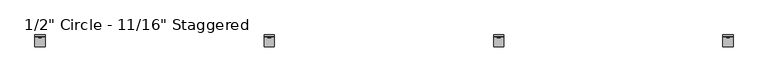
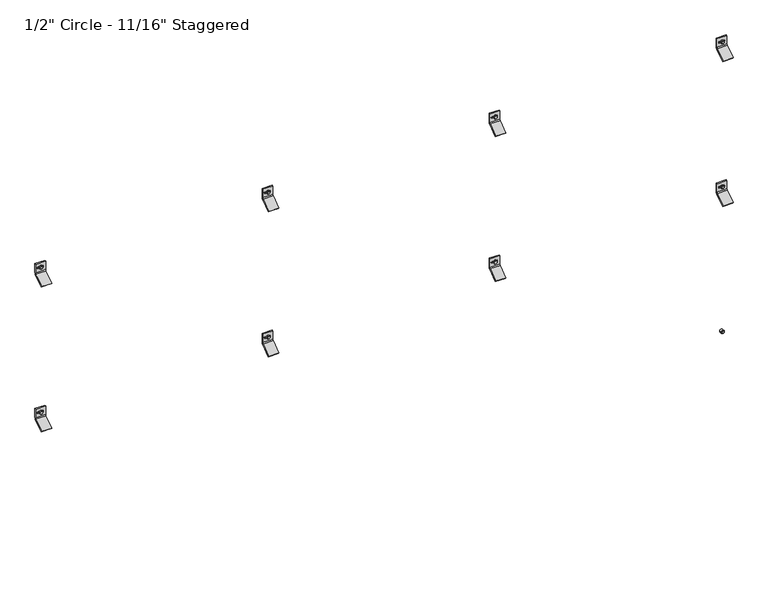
"""IFC4 building model written with IfcOpenShell, lengths in millimetres: plate geometry."""

from ifc_helpers import new_model, si_unit, point, frame, frame_2d, origin, place, context, project, spatial, polyline, circle_curve, trimmed, segment, composite_curve, outline, extrude, source, transform, mapped, element, save
from ifc_brep_helpers import plane_surface, cylinder_surface, revolved_surface, advanced_brep


def plate_ee657770(model_context):
    return source(origin(), model_context, "Body", "SolidModel", [
        extrude(outline(polyline([(1923.7554341, 1293.5570034), (1919.4097216, 1296.0660017), (1919.4097216, 1301.0839983), (1923.7554341, 1303.5929966), (1928.1011466, 1301.0839983), (1928.1011466, 1296.0660017), (1923.7554341, 1293.5570034)])), frame((0.0, -58.7607779, 0.0), z_axis=(0.0, 1.0, 0.0), x_axis=(0.0, 0.0, 1.0)), (0.0, 0.0, 1.0), 11.1357779),
        extrude(outline(composite_curve([segment(trimmed(circle_curve(frame_2d((1923.8487411, 1298.575)), 6.35), [point((1923.8487411, 1304.925))], [point((1923.8487411, 1292.225))], False, "CARTESIAN"), True, "CONTINUOUS"), segment(trimmed(circle_curve(frame_2d((1923.8487411, 1298.575)), 6.35), [point((1923.8487411, 1292.225))], [point((1923.8487411, 1304.925))], False, "CARTESIAN"), True, "CONTINUOUS")], self_intersect=False)), frame((0.0, -57.0817743, 0.0), z_axis=(0.0, 1.0, 0.0), x_axis=(0.0, 0.0, 1.0)), (0.0, 0.0, 1.0), 9.4567743),
        advanced_brep(
        [(1279.525, -47.625, 1906.606122), (1279.525, -51.2819443, 1898.9440896), (1279.525, -89.5163624, 1872.1720618), (1279.525, -92.9330442, 1875.5887436), (1279.525, -54.3526876, 1902.6030001), (1279.525, -52.4002, 1906.6061929), (1279.525, -52.4002, 1940.7988072), (1279.525, -47.625, 1940.7988072), (1317.625, -47.625, 1906.606122), (1317.625, -47.625, 1940.7988072), (1317.625, -52.4002, 1940.7988072), (1317.625, -52.4002, 1906.6061929), (1317.625, -54.3526876, 1902.6030001), (1317.625, -92.9330442, 1875.5887436), (1317.625, -89.5163624, 1872.1720618), (1317.625, -51.2819443, 1898.9440896), (1305.3161889, -52.4002, 1926.753591), (1305.3161889, -52.4002, 1920.403591), (1289.0883287, -52.4002, 1920.403591), (1289.0883287, -52.4002, 1926.753591), (1305.3161889, -47.625, 1920.403591), (1305.3161889, -47.625, 1926.753591), (1289.0883287, -47.625, 1926.753591), (1289.0883287, -47.625, 1920.403591)],
        [
            (0, 1, circle_curve(frame((1279.525, -57.4802202, 1906.606122), z_axis=(-1.0, 0.0, 0.0), x_axis=(0.0, -1.0, 0.0)), 9.8552202)),
            (1, 2),
            (2, 3),
            (3, 4),
            (4, 5, circle_curve(frame((1279.525, -57.4803246, 1906.6061929), z_axis=(1.0, 0.0, 0.0), x_axis=(0.0, -1.0, 0.0)), 5.0801246)),
            (5, 6),
            (6, 7),
            (7, 0),
            (8, 9),
            (9, 10),
            (10, 11),
            (11, 12, circle_curve(frame((1317.625, -57.4803246, 1906.6061929), z_axis=(-1.0, 0.0, 0.0), x_axis=(0.0, -1.0, 0.0)), 5.0801246)),
            (12, 13),
            (13, 14),
            (14, 15),
            (15, 8, circle_curve(frame((1317.625, -57.4802202, 1906.606122), z_axis=(1.0, 0.0, 0.0), x_axis=(0.0, -1.0, 0.0)), 9.8552202)),
            (4, 12),
            (11, 5),
            (10, 6),
            (16, 17, circle_curve(frame((1305.3161889, -52.4002, 1923.578591), z_axis=(0.0, 1.0, 0.0), x_axis=(0.0, 0.0, -1.0)), 3.175)),
            (17, 18),
            (18, 19, circle_curve(frame((1289.0883287, -52.4002, 1923.578591), z_axis=(0.0, 1.0, 0.0), x_axis=(0.0, 0.0, -1.0)), 3.175)),
            (19, 16),
            (9, 7),
            (8, 0),
            (20, 21, circle_curve(frame((1305.3161889, -47.625, 1923.578591), z_axis=(0.0, -1.0, 0.0), x_axis=(0.0, 0.0, -1.0)), 3.175)),
            (21, 22),
            (22, 23, circle_curve(frame((1289.0883287, -47.625, 1923.578591), z_axis=(0.0, -1.0, 0.0), x_axis=(0.0, 0.0, -1.0)), 3.175)),
            (23, 20),
            (15, 1),
            (20, 17),
            (16, 21),
            (19, 22),
            (18, 23),
            (14, 2),
            (13, 3),
        ],
        [
            plane_surface(frame((1279.525, -67.3354404, 1906.606122), z_axis=(-1.0, 0.0, 0.0), x_axis=(0.0, 0.0, 1.0))),
            plane_surface(frame((1317.625, -67.3354404, 1906.606122), z_axis=(1.0, 0.0, 0.0), x_axis=(0.0, 0.0, -1.0))),
            revolved_surface(polyline([(1317.625, -62.5604492, 1906.6061929), (1279.525, -62.5604492, 1906.6061929)]), (1317.625, -57.4803246, 1906.6061929), (1.0, 0.0, 0.0)),
            plane_surface(frame((1279.525, -52.4002, 1906.6061929), z_axis=(0.0, -1.0, 0.0), x_axis=(1.0, 0.0, 0.0))),
            plane_surface(frame((1279.525, -52.4002, 1940.7988072), z_axis=(0.0, 0.0, 1.0), x_axis=(1.0, 0.0, 0.0))),
            plane_surface(frame((1279.525, -47.625, 1940.7988072), z_axis=(0.0, 1.0, 6.99569853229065e-12), x_axis=(1.0, 0.0, 0.0))),
            cylinder_surface(frame((1317.625, -57.4802202, 1906.606122), z_axis=(-1.0, 0.0, 0.0), x_axis=(0.0, -1.0, 0.0)), 9.8552202),
            revolved_surface(polyline([(1305.3161889, -52.4002, 1920.403591), (1305.3161889, -47.625, 1920.403591)]), (1305.3161889, -25.6669948, 1923.578591), (0.0, -1.0, 0.0)),
            plane_surface(frame((1305.3161889, -86.677982, 1926.753591), z_axis=(0.0, 0.0, -1.0), x_axis=(0.0, 1.0, 0.0))),
            revolved_surface(polyline([(1289.0883287, -52.4002, 1920.403591), (1289.0883287, -47.625, 1920.403591)]), (1289.0883287, -25.6669948, 1923.578591), (0.0, -1.0, 0.0)),
            plane_surface(frame((1289.0883287, -86.677982, 1920.403591), z_axis=(-2.7237720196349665e-11, 0.0, 1.0), x_axis=(0.0, 1.0, 0.0))),
            plane_surface(frame((1279.525, -51.2819443, 1898.9440896), z_axis=(0.0, 0.5735764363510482, -0.8191520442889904), x_axis=(1.0, 0.0, 0.0))),
            plane_surface(frame((1279.525, -89.5163624, 1872.1720618), z_axis=(0.0, -0.7071067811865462, -0.7071067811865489), x_axis=(1.0, 0.0, 0.0))),
            plane_surface(frame((1279.525, -92.9330442, 1875.5887436), z_axis=(0.0, -0.5735764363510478, 0.8191520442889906), x_axis=(1.0, 0.0, 0.0))),
        ],
        [
            (0, [[1, 2, 3, 4, 5, 6, 7, 8]]),
            (1, [[9, 10, 11, 12, 13, 14, 15, 16]]),
            (2, [[-5, 17, -12, 18]]),
            (3, [[-6, -18, -11, 19], [20, 21, 22, 23]]),
            (4, [[-7, -19, -10, 24]]),
            (5, [[-8, -24, -9, 25], [26, 27, 28, 29]]),
            (6, [[-1, -25, -16, 30]]),
            (7, [[31, -20, 32, -26]]),
            (8, [[-32, -23, 33, -27]]),
            (9, [[-33, -22, 34, -28]]),
            (10, [[-31, -29, -34, -21]]),
            (11, [[-2, -30, -15, 35]]),
            (12, [[-3, -35, -14, 36]]),
            (13, [[-4, -36, -13, -17]]),
        ],
    ),
        extrude(outline(polyline([(1923.7554341, 427.8403368), (1919.4097216, 430.349335), (1919.4097216, 435.3673316), (1923.7554341, 437.8763299), (1928.1011466, 435.3673316), (1928.1011466, 430.349335), (1923.7554341, 427.8403368)])), frame((0.0, -58.7607779, 0.0), z_axis=(0.0, 1.0, 0.0), x_axis=(0.0, 0.0, 1.0)), (0.0, 0.0, 1.0), 11.1357779),
        extrude(outline(composite_curve([segment(trimmed(circle_curve(frame_2d((1923.8487411, 432.8583333)), 6.35), [point((1923.8487411, 439.2083333))], [point((1923.8487411, 426.5083333))], False, "CARTESIAN"), True, "CONTINUOUS"), segment(trimmed(circle_curve(frame_2d((1923.8487411, 432.8583333)), 6.35), [point((1923.8487411, 426.5083333))], [point((1923.8487411, 439.2083333))], False, "CARTESIAN"), True, "CONTINUOUS")], self_intersect=False)), frame((0.0, -57.0817743, 0.0), z_axis=(0.0, 1.0, 0.0), x_axis=(0.0, 0.0, 1.0)), (0.0, 0.0, 1.0), 9.4567743),
        advanced_brep(
        [(413.8083333, -47.625, 1906.606122), (413.8083333, -51.2819443, 1898.9440896), (413.8083333, -89.5163624, 1872.1720618), (413.8083333, -92.9330442, 1875.5887436), (413.8083333, -54.3526876, 1902.6030001), (413.8083333, -52.4002, 1906.6061929), (413.8083333, -52.4002, 1940.7988072), (413.8083333, -47.625, 1940.7988072), (451.9083333, -47.625, 1906.606122), (451.9083333, -47.625, 1940.7988072), (451.9083333, -52.4002, 1940.7988072), (451.9083333, -52.4002, 1906.6061929), (451.9083333, -54.3526876, 1902.6030001), (451.9083333, -92.9330442, 1875.5887436), (451.9083333, -89.5163624, 1872.1720618), (451.9083333, -51.2819443, 1898.9440896), (439.5995222, -52.4002, 1926.753591), (439.5995222, -52.4002, 1920.403591), (423.371662, -52.4002, 1920.403591), (423.371662, -52.4002, 1926.753591), (439.5995222, -47.625, 1920.403591), (439.5995222, -47.625, 1926.753591), (423.371662, -47.625, 1926.753591), (423.371662, -47.625, 1920.403591)],
        [
            (0, 1, circle_curve(frame((413.8083333, -57.4802202, 1906.606122), z_axis=(-1.0, 0.0, 0.0), x_axis=(0.0, -1.0, 0.0)), 9.8552202)),
            (1, 2),
            (2, 3),
            (3, 4),
            (4, 5, circle_curve(frame((413.8083333, -57.4803246, 1906.6061929), z_axis=(1.0, 0.0, 0.0), x_axis=(0.0, -1.0, 0.0)), 5.0801246)),
            (5, 6),
            (6, 7),
            (7, 0),
            (8, 9),
            (9, 10),
            (10, 11),
            (11, 12, circle_curve(frame((451.9083333, -57.4803246, 1906.6061929), z_axis=(-1.0, 0.0, 0.0), x_axis=(0.0, -1.0, 0.0)), 5.0801246)),
            (12, 13),
            (13, 14),
            (14, 15),
            (15, 8, circle_curve(frame((451.9083333, -57.4802202, 1906.606122), z_axis=(1.0, 0.0, 0.0), x_axis=(0.0, -1.0, 0.0)), 9.8552202)),
            (4, 12),
            (11, 5),
            (10, 6),
            (16, 17, circle_curve(frame((439.5995222, -52.4002, 1923.578591), z_axis=(0.0, 1.0, 0.0), x_axis=(0.0, 0.0, -1.0)), 3.175)),
            (17, 18),
            (18, 19, circle_curve(frame((423.371662, -52.4002, 1923.578591), z_axis=(0.0, 1.0, 0.0), x_axis=(0.0, 0.0, -1.0)), 3.175)),
            (19, 16),
            (9, 7),
            (8, 0),
            (20, 21, circle_curve(frame((439.5995222, -47.625, 1923.578591), z_axis=(0.0, -1.0, 0.0), x_axis=(0.0, 0.0, -1.0)), 3.175)),
            (21, 22),
            (22, 23, circle_curve(frame((423.371662, -47.625, 1923.578591), z_axis=(0.0, -1.0, 0.0), x_axis=(0.0, 0.0, -1.0)), 3.175)),
            (23, 20),
            (15, 1),
            (20, 17),
            (16, 21),
            (19, 22),
            (18, 23),
            (14, 2),
            (13, 3),
        ],
        [
            plane_surface(frame((413.8083333, -67.3354404, 1906.606122), z_axis=(-1.0, 0.0, 0.0), x_axis=(0.0, 0.0, 1.0))),
            plane_surface(frame((451.9083333, -67.3354404, 1906.606122), z_axis=(1.0, 0.0, 0.0), x_axis=(0.0, 0.0, -1.0))),
            revolved_surface(polyline([(451.9083333, -62.5604492, 1906.6061929), (413.8083333, -62.5604492, 1906.6061929)]), (451.9083333, -57.4803246, 1906.6061929), (1.0, 0.0, 0.0)),
            plane_surface(frame((413.8083333, -52.4002, 1906.6061929), z_axis=(0.0, -1.0, 0.0), x_axis=(1.0, 0.0, 0.0))),
            plane_surface(frame((413.8083333, -52.4002, 1940.7988072), z_axis=(0.0, 0.0, 1.0), x_axis=(1.0, 0.0, 0.0))),
            plane_surface(frame((413.8083333, -47.625, 1940.7988072), z_axis=(0.0, 1.0, 6.99569853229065e-12), x_axis=(1.0, 0.0, 0.0))),
            cylinder_surface(frame((451.9083333, -57.4802202, 1906.606122), z_axis=(-1.0, 0.0, 0.0), x_axis=(0.0, -1.0, 0.0)), 9.8552202),
            revolved_surface(polyline([(439.5995222, -52.4002, 1920.403591), (439.5995222, -47.625, 1920.403591)]), (439.5995222, -25.6669948, 1923.578591), (0.0, -1.0, 0.0)),
            plane_surface(frame((439.5995222, -86.677982, 1926.753591), z_axis=(0.0, 0.0, -1.0), x_axis=(0.0, 1.0, 0.0))),
            revolved_surface(polyline([(423.371662, -52.4002, 1920.403591), (423.371662, -47.625, 1920.403591)]), (423.371662, -25.6669948, 1923.578591), (0.0, -1.0, 0.0)),
            plane_surface(frame((423.371662, -86.677982, 1920.403591), z_axis=(-2.7237720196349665e-11, 0.0, 1.0), x_axis=(0.0, 1.0, 0.0))),
            plane_surface(frame((413.8083333, -51.2819443, 1898.9440896), z_axis=(0.0, 0.5735764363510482, -0.8191520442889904), x_axis=(1.0, 0.0, 0.0))),
            plane_surface(frame((413.8083333, -89.5163624, 1872.1720618), z_axis=(0.0, -0.7071067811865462, -0.7071067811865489), x_axis=(1.0, 0.0, 0.0))),
            plane_surface(frame((413.8083333, -92.9330442, 1875.5887436), z_axis=(0.0, -0.5735764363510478, 0.8191520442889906), x_axis=(1.0, 0.0, 0.0))),
        ],
        [
            (0, [[1, 2, 3, 4, 5, 6, 7, 8]]),
            (1, [[9, 10, 11, 12, 13, 14, 15, 16]]),
            (2, [[-5, 17, -12, 18]]),
            (3, [[-6, -18, -11, 19], [20, 21, 22, 23]]),
            (4, [[-7, -19, -10, 24]]),
            (5, [[-8, -24, -9, 25], [26, 27, 28, 29]]),
            (6, [[-1, -25, -16, 30]]),
            (7, [[31, -20, 32, -26]]),
            (8, [[-32, -23, 33, -27]]),
            (9, [[-33, -22, 34, -28]]),
            (10, [[-31, -29, -34, -21]]),
            (11, [[-2, -30, -15, 35]]),
            (12, [[-3, -35, -14, 36]]),
            (13, [[-4, -36, -13, -17]]),
        ],
    ),
        extrude(outline(polyline([(1923.7554341, -437.8763299), (1919.4097216, -435.3673316), (1919.4097216, -430.349335), (1923.7554341, -427.8403368), (1928.1011466, -430.349335), (1928.1011466, -435.3673316), (1923.7554341, -437.8763299)])), frame((0.0, -58.7607779, 0.0), z_axis=(0.0, 1.0, 0.0), x_axis=(0.0, 0.0, 1.0)), (0.0, 0.0, 1.0), 11.1357779),
        extrude(outline(composite_curve([segment(trimmed(circle_curve(frame_2d((1923.8487411, -432.8583333)), 6.35), [point((1923.8487411, -426.5083333))], [point((1923.8487411, -439.2083333))], False, "CARTESIAN"), True, "CONTINUOUS"), segment(trimmed(circle_curve(frame_2d((1923.8487411, -432.8583333)), 6.35), [point((1923.8487411, -439.2083333))], [point((1923.8487411, -426.5083333))], False, "CARTESIAN"), True, "CONTINUOUS")], self_intersect=False)), frame((0.0, -57.0817743, 0.0), z_axis=(0.0, 1.0, 0.0), x_axis=(0.0, 0.0, 1.0)), (0.0, 0.0, 1.0), 9.4567743),
        advanced_brep(
        [(-451.9083333, -47.625, 1906.606122), (-451.9083333, -51.2819443, 1898.9440896), (-451.9083333, -89.5163624, 1872.1720618), (-451.9083333, -92.9330442, 1875.5887436), (-451.9083333, -54.3526876, 1902.6030001), (-451.9083333, -52.4002, 1906.6061929), (-451.9083333, -52.4002, 1940.7988072), (-451.9083333, -47.625, 1940.7988072), (-413.8083333, -47.625, 1906.606122), (-413.8083333, -47.625, 1940.7988072), (-413.8083333, -52.4002, 1940.7988072), (-413.8083333, -52.4002, 1906.6061929), (-413.8083333, -54.3526876, 1902.6030001), (-413.8083333, -92.9330442, 1875.5887436), (-413.8083333, -89.5163624, 1872.1720618), (-413.8083333, -51.2819443, 1898.9440896), (-426.1171444, -52.4002, 1926.753591), (-426.1171444, -52.4002, 1920.403591), (-442.3450046, -52.4002, 1920.403591), (-442.3450046, -52.4002, 1926.753591), (-426.1171444, -47.625, 1920.403591), (-426.1171444, -47.625, 1926.753591), (-442.3450046, -47.625, 1926.753591), (-442.3450046, -47.625, 1920.403591)],
        [
            (0, 1, circle_curve(frame((-451.9083333, -57.4802202, 1906.606122), z_axis=(-1.0, 0.0, 0.0), x_axis=(0.0, -1.0, 0.0)), 9.8552202)),
            (1, 2),
            (2, 3),
            (3, 4),
            (4, 5, circle_curve(frame((-451.9083333, -57.4803246, 1906.6061929), z_axis=(1.0, 0.0, 0.0), x_axis=(0.0, -1.0, 0.0)), 5.0801246)),
            (5, 6),
            (6, 7),
            (7, 0),
            (8, 9),
            (9, 10),
            (10, 11),
            (11, 12, circle_curve(frame((-413.8083333, -57.4803246, 1906.6061929), z_axis=(-1.0, 0.0, 0.0), x_axis=(0.0, -1.0, 0.0)), 5.0801246)),
            (12, 13),
            (13, 14),
            (14, 15),
            (15, 8, circle_curve(frame((-413.8083333, -57.4802202, 1906.606122), z_axis=(1.0, 0.0, 0.0), x_axis=(0.0, -1.0, 0.0)), 9.8552202)),
            (4, 12),
            (11, 5),
            (10, 6),
            (16, 17, circle_curve(frame((-426.1171444, -52.4002, 1923.578591), z_axis=(0.0, 1.0, 0.0), x_axis=(0.0, 0.0, -1.0)), 3.175)),
            (17, 18),
            (18, 19, circle_curve(frame((-442.3450046, -52.4002, 1923.578591), z_axis=(0.0, 1.0, 0.0), x_axis=(0.0, 0.0, -1.0)), 3.175)),
            (19, 16),
            (9, 7),
            (8, 0),
            (20, 21, circle_curve(frame((-426.1171444, -47.625, 1923.578591), z_axis=(0.0, -1.0, 0.0), x_axis=(0.0, 0.0, -1.0)), 3.175)),
            (21, 22),
            (22, 23, circle_curve(frame((-442.3450046, -47.625, 1923.578591), z_axis=(0.0, -1.0, 0.0), x_axis=(0.0, 0.0, -1.0)), 3.175)),
            (23, 20),
            (15, 1),
            (20, 17),
            (16, 21),
            (19, 22),
            (18, 23),
            (14, 2),
            (13, 3),
        ],
        [
            plane_surface(frame((-451.9083333, -67.3354404, 1906.606122), z_axis=(-1.0, 0.0, 0.0), x_axis=(0.0, 0.0, 1.0))),
            plane_surface(frame((-413.8083333, -67.3354404, 1906.606122), z_axis=(1.0, 0.0, 0.0), x_axis=(0.0, 0.0, -1.0))),
            revolved_surface(polyline([(-413.8083333, -62.5604492, 1906.6061929), (-451.9083333, -62.5604492, 1906.6061929)]), (-413.8083333, -57.4803246, 1906.6061929), (1.0, 0.0, 0.0)),
            plane_surface(frame((-451.9083333, -52.4002, 1906.6061929), z_axis=(0.0, -1.0, 0.0), x_axis=(1.0, 0.0, 0.0))),
            plane_surface(frame((-451.9083333, -52.4002, 1940.7988072), z_axis=(0.0, 0.0, 1.0), x_axis=(1.0, 0.0, 0.0))),
            plane_surface(frame((-451.9083333, -47.625, 1940.7988072), z_axis=(0.0, 1.0, 6.99569853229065e-12), x_axis=(1.0, 0.0, 0.0))),
            cylinder_surface(frame((-413.8083333, -57.4802202, 1906.606122), z_axis=(-1.0, 0.0, 0.0), x_axis=(0.0, -1.0, 0.0)), 9.8552202),
            revolved_surface(polyline([(-426.1171444, -52.4002, 1920.403591), (-426.1171444, -47.625, 1920.403591)]), (-426.1171444, -25.6669948, 1923.578591), (0.0, -1.0, 0.0)),
            plane_surface(frame((-426.1171444, -86.677982, 1926.753591), z_axis=(0.0, 0.0, -1.0), x_axis=(0.0, 1.0, 0.0))),
            revolved_surface(polyline([(-442.3450046, -52.4002, 1920.403591), (-442.3450046, -47.625, 1920.403591)]), (-442.3450046, -25.6669948, 1923.578591), (0.0, -1.0, 0.0)),
            plane_surface(frame((-442.3450046, -86.677982, 1920.403591), z_axis=(-2.7237720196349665e-11, 0.0, 1.0), x_axis=(0.0, 1.0, 0.0))),
            plane_surface(frame((-451.9083333, -51.2819443, 1898.9440896), z_axis=(0.0, 0.5735764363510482, -0.8191520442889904), x_axis=(1.0, 0.0, 0.0))),
            plane_surface(frame((-451.9083333, -89.5163624, 1872.1720618), z_axis=(0.0, -0.7071067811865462, -0.7071067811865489), x_axis=(1.0, 0.0, 0.0))),
            plane_surface(frame((-451.9083333, -92.9330442, 1875.5887436), z_axis=(0.0, -0.5735764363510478, 0.8191520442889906), x_axis=(1.0, 0.0, 0.0))),
        ],
        [
            (0, [[1, 2, 3, 4, 5, 6, 7, 8]]),
            (1, [[9, 10, 11, 12, 13, 14, 15, 16]]),
            (2, [[-5, 17, -12, 18]]),
            (3, [[-6, -18, -11, 19], [20, 21, 22, 23]]),
            (4, [[-7, -19, -10, 24]]),
            (5, [[-8, -24, -9, 25], [26, 27, 28, 29]]),
            (6, [[-1, -25, -16, 30]]),
            (7, [[31, -20, 32, -26]]),
            (8, [[-32, -23, 33, -27]]),
            (9, [[-33, -22, 34, -28]]),
            (10, [[-31, -29, -34, -21]]),
            (11, [[-2, -30, -15, 35]]),
            (12, [[-3, -35, -14, 36]]),
            (13, [[-4, -36, -13, -17]]),
        ],
    ),
        extrude(outline(polyline([(1923.7554341, -1303.5929966), (1919.4097216, -1301.0839983), (1919.4097216, -1296.0660017), (1923.7554341, -1293.5570034), (1928.1011466, -1296.0660017), (1928.1011466, -1301.0839983), (1923.7554341, -1303.5929966)])), frame((0.0, -58.7607779, 0.0), z_axis=(0.0, 1.0, 0.0), x_axis=(0.0, 0.0, 1.0)), (0.0, 0.0, 1.0), 11.1357779),
        extrude(outline(composite_curve([segment(trimmed(circle_curve(frame_2d((1923.8487411, -1298.575)), 6.35), [point((1923.8487411, -1292.225))], [point((1923.8487411, -1304.925))], False, "CARTESIAN"), True, "CONTINUOUS"), segment(trimmed(circle_curve(frame_2d((1923.8487411, -1298.575)), 6.35), [point((1923.8487411, -1304.925))], [point((1923.8487411, -1292.225))], False, "CARTESIAN"), True, "CONTINUOUS")], self_intersect=False)), frame((0.0, -57.0817743, 0.0), z_axis=(0.0, 1.0, 0.0), x_axis=(0.0, 0.0, 1.0)), (0.0, 0.0, 1.0), 9.4567743),
        advanced_brep(
        [(-1317.625, -47.625, 1906.606122), (-1317.625, -51.2819443, 1898.9440896), (-1317.625, -89.5163624, 1872.1720618), (-1317.625, -92.9330442, 1875.5887436), (-1317.625, -54.3526876, 1902.6030001), (-1317.625, -52.4002, 1906.6061929), (-1317.625, -52.4002, 1940.7988072), (-1317.625, -47.625, 1940.7988072), (-1279.525, -47.625, 1906.606122), (-1279.525, -47.625, 1940.7988072), (-1279.525, -52.4002, 1940.7988072), (-1279.525, -52.4002, 1906.6061929), (-1279.525, -54.3526876, 1902.6030001), (-1279.525, -92.9330442, 1875.5887436), (-1279.525, -89.5163624, 1872.1720618), (-1279.525, -51.2819443, 1898.9440896), (-1291.8338111, -52.4002, 1926.753591), (-1291.8338111, -52.4002, 1920.403591), (-1308.0616713, -52.4002, 1920.403591), (-1308.0616713, -52.4002, 1926.753591), (-1291.8338111, -47.625, 1920.403591), (-1291.8338111, -47.625, 1926.753591), (-1308.0616713, -47.625, 1926.753591), (-1308.0616713, -47.625, 1920.403591)],
        [
            (0, 1, circle_curve(frame((-1317.625, -57.4802202, 1906.606122), z_axis=(-1.0, 0.0, 0.0), x_axis=(0.0, -1.0, 0.0)), 9.8552202)),
            (1, 2),
            (2, 3),
            (3, 4),
            (4, 5, circle_curve(frame((-1317.625, -57.4803246, 1906.6061929), z_axis=(1.0, 0.0, 0.0), x_axis=(0.0, -1.0, 0.0)), 5.0801246)),
            (5, 6),
            (6, 7),
            (7, 0),
            (8, 9),
            (9, 10),
            (10, 11),
            (11, 12, circle_curve(frame((-1279.525, -57.4803246, 1906.6061929), z_axis=(-1.0, 0.0, 0.0), x_axis=(0.0, -1.0, 0.0)), 5.0801246)),
            (12, 13),
            (13, 14),
            (14, 15),
            (15, 8, circle_curve(frame((-1279.525, -57.4802202, 1906.606122), z_axis=(1.0, 0.0, 0.0), x_axis=(0.0, -1.0, 0.0)), 9.8552202)),
            (4, 12),
            (11, 5),
            (10, 6),
            (16, 17, circle_curve(frame((-1291.8338111, -52.4002, 1923.578591), z_axis=(0.0, 1.0, 0.0), x_axis=(0.0, 0.0, -1.0)), 3.175)),
            (17, 18),
            (18, 19, circle_curve(frame((-1308.0616713, -52.4002, 1923.578591), z_axis=(0.0, 1.0, 0.0), x_axis=(0.0, 0.0, -1.0)), 3.175)),
            (19, 16),
            (9, 7),
            (8, 0),
            (20, 21, circle_curve(frame((-1291.8338111, -47.625, 1923.578591), z_axis=(0.0, -1.0, 0.0), x_axis=(0.0, 0.0, -1.0)), 3.175)),
            (21, 22),
            (22, 23, circle_curve(frame((-1308.0616713, -47.625, 1923.578591), z_axis=(0.0, -1.0, 0.0), x_axis=(0.0, 0.0, -1.0)), 3.175)),
            (23, 20),
            (15, 1),
            (20, 17),
            (16, 21),
            (19, 22),
            (18, 23),
            (14, 2),
            (13, 3),
        ],
        [
            plane_surface(frame((-1317.625, -67.3354404, 1906.606122), z_axis=(-1.0, 0.0, 0.0), x_axis=(0.0, 0.0, 1.0))),
            plane_surface(frame((-1279.525, -67.3354404, 1906.606122), z_axis=(1.0, 0.0, 0.0), x_axis=(0.0, 0.0, -1.0))),
            revolved_surface(polyline([(-1279.525, -62.5604492, 1906.6061929), (-1317.625, -62.5604492, 1906.6061929)]), (-1279.525, -57.4803246, 1906.6061929), (1.0, 0.0, 0.0)),
            plane_surface(frame((-1317.625, -52.4002, 1906.6061929), z_axis=(0.0, -1.0, 0.0), x_axis=(1.0, 0.0, 0.0))),
            plane_surface(frame((-1317.625, -52.4002, 1940.7988072), z_axis=(0.0, 0.0, 1.0), x_axis=(1.0, 0.0, 0.0))),
            plane_surface(frame((-1317.625, -47.625, 1940.7988072), z_axis=(0.0, 1.0, 6.99569853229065e-12), x_axis=(1.0, 0.0, 0.0))),
            cylinder_surface(frame((-1279.525, -57.4802202, 1906.606122), z_axis=(-1.0, 0.0, 0.0), x_axis=(0.0, -1.0, 0.0)), 9.8552202),
            revolved_surface(polyline([(-1291.8338111, -52.4002, 1920.403591), (-1291.8338111, -47.625, 1920.403591)]), (-1291.8338111, -25.6669948, 1923.578591), (0.0, -1.0, 0.0)),
            plane_surface(frame((-1291.8338111, -86.677982, 1926.753591), z_axis=(0.0, 0.0, -1.0), x_axis=(0.0, 1.0, 0.0))),
            revolved_surface(polyline([(-1308.0616713, -52.4002, 1920.403591), (-1308.0616713, -47.625, 1920.403591)]), (-1308.0616713, -25.6669948, 1923.578591), (0.0, -1.0, 0.0)),
            plane_surface(frame((-1308.0616713, -86.677982, 1920.403591), z_axis=(-2.7237720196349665e-11, 0.0, 1.0), x_axis=(0.0, 1.0, 0.0))),
            plane_surface(frame((-1317.625, -51.2819443, 1898.9440896), z_axis=(0.0, 0.5735764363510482, -0.8191520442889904), x_axis=(1.0, 0.0, 0.0))),
            plane_surface(frame((-1317.625, -89.5163624, 1872.1720618), z_axis=(0.0, -0.7071067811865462, -0.7071067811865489), x_axis=(1.0, 0.0, 0.0))),
            plane_surface(frame((-1317.625, -92.9330442, 1875.5887436), z_axis=(0.0, -0.5735764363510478, 0.8191520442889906), x_axis=(1.0, 0.0, 0.0))),
        ],
        [
            (0, [[1, 2, 3, 4, 5, 6, 7, 8]]),
            (1, [[9, 10, 11, 12, 13, 14, 15, 16]]),
            (2, [[-5, 17, -12, 18]]),
            (3, [[-6, -18, -11, 19], [20, 21, 22, 23]]),
            (4, [[-7, -19, -10, 24]]),
            (5, [[-8, -24, -9, 25], [26, 27, 28, 29]]),
            (6, [[-1, -25, -16, 30]]),
            (7, [[31, -20, 32, -26]]),
            (8, [[-32, -23, 33, -27]]),
            (9, [[-33, -22, 34, -28]]),
            (10, [[-31, -29, -34, -21]]),
            (11, [[-2, -30, -15, 35]]),
            (12, [[-3, -35, -14, 36]]),
            (13, [[-4, -36, -13, -17]]),
        ],
    ),
        extrude(outline(polyline([(1339.1301335, 1293.5570034), (1334.784421, 1296.0660017), (1334.784421, 1301.0839983), (1339.1301335, 1303.5929966), (1343.475846, 1301.0839983), (1343.475846, 1296.0660017), (1339.1301335, 1293.5570034)])), frame((0.0, -58.7607779, 0.0), z_axis=(0.0, 1.0, 0.0), x_axis=(0.0, 0.0, 1.0)), (0.0, 0.0, 1.0), 11.1357779),
        extrude(outline(composite_curve([segment(trimmed(circle_curve(frame_2d((1339.2234405, 1298.575)), 6.35), [point((1339.2234405, 1304.925))], [point((1339.2234405, 1292.225))], False, "CARTESIAN"), True, "CONTINUOUS"), segment(trimmed(circle_curve(frame_2d((1339.2234405, 1298.575)), 6.35), [point((1339.2234405, 1292.225))], [point((1339.2234405, 1304.925))], False, "CARTESIAN"), True, "CONTINUOUS")], self_intersect=False)), frame((0.0, -57.0817743, 0.0), z_axis=(0.0, 1.0, 0.0), x_axis=(0.0, 0.0, 1.0)), (0.0, 0.0, 1.0), 9.4567743),
        advanced_brep(
        [(1279.525, -47.625, 1321.9808214), (1279.525, -51.2819443, 1314.318789), (1279.525, -89.5163624, 1287.5467612), (1279.525, -92.9330442, 1290.963443), (1279.525, -54.3526876, 1317.9776995), (1279.525, -52.4002, 1321.9808923), (1279.525, -52.4002, 1356.1735066), (1279.525, -47.625, 1356.1735066), (1317.625, -47.625, 1321.9808214), (1317.625, -47.625, 1356.1735066), (1317.625, -52.4002, 1356.1735066), (1317.625, -52.4002, 1321.9808923), (1317.625, -54.3526876, 1317.9776995), (1317.625, -92.9330442, 1290.963443), (1317.625, -89.5163624, 1287.5467612), (1317.625, -51.2819443, 1314.318789), (1305.3161889, -52.4002, 1342.1282903), (1305.3161889, -52.4002, 1335.7782903), (1289.0883287, -52.4002, 1335.7782903), (1289.0883287, -52.4002, 1342.1282903), (1305.3161889, -47.625, 1335.7782903), (1305.3161889, -47.625, 1342.1282903), (1289.0883287, -47.625, 1342.1282903), (1289.0883287, -47.625, 1335.7782903)],
        [
            (0, 1, circle_curve(frame((1279.525, -57.4802202, 1321.9808214), z_axis=(-1.0, 0.0, 0.0), x_axis=(0.0, -1.0, 0.0)), 9.8552202)),
            (1, 2),
            (2, 3),
            (3, 4),
            (4, 5, circle_curve(frame((1279.525, -57.4803246, 1321.9808923), z_axis=(1.0, 0.0, 0.0), x_axis=(0.0, -1.0, 0.0)), 5.0801246)),
            (5, 6),
            (6, 7),
            (7, 0),
            (8, 9),
            (9, 10),
            (10, 11),
            (11, 12, circle_curve(frame((1317.625, -57.4803246, 1321.9808923), z_axis=(-1.0, 0.0, 0.0), x_axis=(0.0, -1.0, 0.0)), 5.0801246)),
            (12, 13),
            (13, 14),
            (14, 15),
            (15, 8, circle_curve(frame((1317.625, -57.4802202, 1321.9808214), z_axis=(1.0, 0.0, 0.0), x_axis=(0.0, -1.0, 0.0)), 9.8552202)),
            (4, 12),
            (11, 5),
            (10, 6),
            (16, 17, circle_curve(frame((1305.3161889, -52.4002, 1338.9532903), z_axis=(0.0, 1.0, 0.0), x_axis=(0.0, 0.0, -1.0)), 3.175)),
            (17, 18),
            (18, 19, circle_curve(frame((1289.0883287, -52.4002, 1338.9532903), z_axis=(0.0, 1.0, 0.0), x_axis=(0.0, 0.0, -1.0)), 3.175)),
            (19, 16),
            (9, 7),
            (8, 0),
            (20, 21, circle_curve(frame((1305.3161889, -47.625, 1338.9532903), z_axis=(0.0, -1.0, 0.0), x_axis=(0.0, 0.0, -1.0)), 3.175)),
            (21, 22),
            (22, 23, circle_curve(frame((1289.0883287, -47.625, 1338.9532903), z_axis=(0.0, -1.0, 0.0), x_axis=(0.0, 0.0, -1.0)), 3.175)),
            (23, 20),
            (15, 1),
            (20, 17),
            (16, 21),
            (19, 22),
            (18, 23),
            (14, 2),
            (13, 3),
        ],
        [
            plane_surface(frame((1279.525, -67.3354404, 1321.9808214), z_axis=(-1.0, 0.0, 0.0), x_axis=(0.0, 0.0, 1.0))),
            plane_surface(frame((1317.625, -67.3354404, 1321.9808214), z_axis=(1.0, 0.0, 0.0), x_axis=(0.0, 0.0, -1.0))),
            revolved_surface(polyline([(1317.625, -62.5604492, 1321.9808923), (1279.525, -62.5604492, 1321.9808923)]), (1317.625, -57.4803246, 1321.9808923), (1.0, 0.0, 0.0)),
            plane_surface(frame((1279.525, -52.4002, 1321.9808923), z_axis=(0.0, -1.0, 0.0), x_axis=(1.0, 0.0, 0.0))),
            plane_surface(frame((1279.525, -52.4002, 1356.1735066), z_axis=(0.0, 0.0, 1.0), x_axis=(1.0, 0.0, 0.0))),
            plane_surface(frame((1279.525, -47.625, 1356.1735066), z_axis=(0.0, 1.0, 6.99569853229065e-12), x_axis=(1.0, 0.0, 0.0))),
            cylinder_surface(frame((1317.625, -57.4802202, 1321.9808214), z_axis=(-1.0, 0.0, 0.0), x_axis=(0.0, -1.0, 0.0)), 9.8552202),
            revolved_surface(polyline([(1305.3161889, -52.4002, 1335.7782903), (1305.3161889, -47.625, 1335.7782903)]), (1305.3161889, -25.6669948, 1338.9532903), (0.0, -1.0, 0.0)),
            plane_surface(frame((1305.3161889, -86.677982, 1342.1282903), z_axis=(0.0, 0.0, -1.0), x_axis=(0.0, 1.0, 0.0))),
            revolved_surface(polyline([(1289.0883287, -52.4002, 1335.7782903), (1289.0883287, -47.625, 1335.7782903)]), (1289.0883287, -25.6669948, 1338.9532903), (0.0, -1.0, 0.0)),
            plane_surface(frame((1289.0883287, -86.677982, 1335.7782903), z_axis=(-2.7237766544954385e-11, 0.0, 1.0), x_axis=(0.0, 1.0, 0.0))),
            plane_surface(frame((1279.525, -51.2819443, 1314.318789), z_axis=(0.0, 0.5735764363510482, -0.8191520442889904), x_axis=(1.0, 0.0, 0.0))),
            plane_surface(frame((1279.525, -89.5163624, 1287.5467612), z_axis=(0.0, -0.7071067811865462, -0.7071067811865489), x_axis=(1.0, 0.0, 0.0))),
            plane_surface(frame((1279.525, -92.9330442, 1290.963443), z_axis=(0.0, -0.5735764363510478, 0.8191520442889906), x_axis=(1.0, 0.0, 0.0))),
        ],
        [
            (0, [[1, 2, 3, 4, 5, 6, 7, 8]]),
            (1, [[9, 10, 11, 12, 13, 14, 15, 16]]),
            (2, [[-5, 17, -12, 18]]),
            (3, [[-6, -18, -11, 19], [20, 21, 22, 23]]),
            (4, [[-7, -19, -10, 24]]),
            (5, [[-8, -24, -9, 25], [26, 27, 28, 29]]),
            (6, [[-1, -25, -16, 30]]),
            (7, [[31, -20, 32, -26]]),
            (8, [[-32, -23, 33, -27]]),
            (9, [[-33, -22, 34, -28]]),
            (10, [[-31, -29, -34, -21]]),
            (11, [[-2, -30, -15, 35]]),
            (12, [[-3, -35, -14, 36]]),
            (13, [[-4, -36, -13, -17]]),
        ],
    ),
        extrude(outline(polyline([(1339.1301335, 427.8403368), (1334.784421, 430.349335), (1334.784421, 435.3673316), (1339.1301335, 437.8763299), (1343.475846, 435.3673316), (1343.475846, 430.349335), (1339.1301335, 427.8403368)])), frame((0.0, -58.7607779, 0.0), z_axis=(0.0, 1.0, 0.0), x_axis=(0.0, 0.0, 1.0)), (0.0, 0.0, 1.0), 11.1357779),
        extrude(outline(composite_curve([segment(trimmed(circle_curve(frame_2d((1339.2234405, 432.8583333)), 6.35), [point((1339.2234405, 439.2083333))], [point((1339.2234405, 426.5083333))], False, "CARTESIAN"), True, "CONTINUOUS"), segment(trimmed(circle_curve(frame_2d((1339.2234405, 432.8583333)), 6.35), [point((1339.2234405, 426.5083333))], [point((1339.2234405, 439.2083333))], False, "CARTESIAN"), True, "CONTINUOUS")], self_intersect=False)), frame((0.0, -57.0817743, 0.0), z_axis=(0.0, 1.0, 0.0), x_axis=(0.0, 0.0, 1.0)), (0.0, 0.0, 1.0), 9.4567743),
        advanced_brep(
        [(413.8083333, -47.625, 1321.9808214), (413.8083333, -51.2819443, 1314.318789), (413.8083333, -89.5163624, 1287.5467612), (413.8083333, -92.9330442, 1290.963443), (413.8083333, -54.3526876, 1317.9776995), (413.8083333, -52.4002, 1321.9808923), (413.8083333, -52.4002, 1356.1735066), (413.8083333, -47.625, 1356.1735066), (451.9083333, -47.625, 1321.9808214), (451.9083333, -47.625, 1356.1735066), (451.9083333, -52.4002, 1356.1735066), (451.9083333, -52.4002, 1321.9808923), (451.9083333, -54.3526876, 1317.9776995), (451.9083333, -92.9330442, 1290.963443), (451.9083333, -89.5163624, 1287.5467612), (451.9083333, -51.2819443, 1314.318789), (439.5995222, -52.4002, 1342.1282903), (439.5995222, -52.4002, 1335.7782903), (423.371662, -52.4002, 1335.7782903), (423.371662, -52.4002, 1342.1282903), (439.5995222, -47.625, 1335.7782903), (439.5995222, -47.625, 1342.1282903), (423.371662, -47.625, 1342.1282903), (423.371662, -47.625, 1335.7782903)],
        [
            (0, 1, circle_curve(frame((413.8083333, -57.4802202, 1321.9808214), z_axis=(-1.0, 0.0, 0.0), x_axis=(0.0, -1.0, 0.0)), 9.8552202)),
            (1, 2),
            (2, 3),
            (3, 4),
            (4, 5, circle_curve(frame((413.8083333, -57.4803246, 1321.9808923), z_axis=(1.0, 0.0, 0.0), x_axis=(0.0, -1.0, 0.0)), 5.0801246)),
            (5, 6),
            (6, 7),
            (7, 0),
            (8, 9),
            (9, 10),
            (10, 11),
            (11, 12, circle_curve(frame((451.9083333, -57.4803246, 1321.9808923), z_axis=(-1.0, 0.0, 0.0), x_axis=(0.0, -1.0, 0.0)), 5.0801246)),
            (12, 13),
            (13, 14),
            (14, 15),
            (15, 8, circle_curve(frame((451.9083333, -57.4802202, 1321.9808214), z_axis=(1.0, 0.0, 0.0), x_axis=(0.0, -1.0, 0.0)), 9.8552202)),
            (4, 12),
            (11, 5),
            (10, 6),
            (16, 17, circle_curve(frame((439.5995222, -52.4002, 1338.9532903), z_axis=(0.0, 1.0, 0.0), x_axis=(0.0, 0.0, -1.0)), 3.175)),
            (17, 18),
            (18, 19, circle_curve(frame((423.371662, -52.4002, 1338.9532903), z_axis=(0.0, 1.0, 0.0), x_axis=(0.0, 0.0, -1.0)), 3.175)),
            (19, 16),
            (9, 7),
            (8, 0),
            (20, 21, circle_curve(frame((439.5995222, -47.625, 1338.9532903), z_axis=(0.0, -1.0, 0.0), x_axis=(0.0, 0.0, -1.0)), 3.175)),
            (21, 22),
            (22, 23, circle_curve(frame((423.371662, -47.625, 1338.9532903), z_axis=(0.0, -1.0, 0.0), x_axis=(0.0, 0.0, -1.0)), 3.175)),
            (23, 20),
            (15, 1),
            (20, 17),
            (16, 21),
            (19, 22),
            (18, 23),
            (14, 2),
            (13, 3),
        ],
        [
            plane_surface(frame((413.8083333, -67.3354404, 1321.9808214), z_axis=(-1.0, 0.0, 0.0), x_axis=(0.0, 0.0, 1.0))),
            plane_surface(frame((451.9083333, -67.3354404, 1321.9808214), z_axis=(1.0, 0.0, 0.0), x_axis=(0.0, 0.0, -1.0))),
            revolved_surface(polyline([(451.9083333, -62.5604492, 1321.9808923), (413.8083333, -62.5604492, 1321.9808923)]), (451.9083333, -57.4803246, 1321.9808923), (1.0, 0.0, 0.0)),
            plane_surface(frame((413.8083333, -52.4002, 1321.9808923), z_axis=(0.0, -1.0, 0.0), x_axis=(1.0, 0.0, 0.0))),
            plane_surface(frame((413.8083333, -52.4002, 1356.1735066), z_axis=(0.0, 0.0, 1.0), x_axis=(1.0, 0.0, 0.0))),
            plane_surface(frame((413.8083333, -47.625, 1356.1735066), z_axis=(0.0, 1.0, 6.99569853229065e-12), x_axis=(1.0, 0.0, 0.0))),
            cylinder_surface(frame((451.9083333, -57.4802202, 1321.9808214), z_axis=(-1.0, 0.0, 0.0), x_axis=(0.0, -1.0, 0.0)), 9.8552202),
            revolved_surface(polyline([(439.5995222, -52.4002, 1335.7782903), (439.5995222, -47.625, 1335.7782903)]), (439.5995222, -25.6669948, 1338.9532903), (0.0, -1.0, 0.0)),
            plane_surface(frame((439.5995222, -86.677982, 1342.1282903), z_axis=(0.0, 0.0, -1.0), x_axis=(0.0, 1.0, 0.0))),
            revolved_surface(polyline([(423.371662, -52.4002, 1335.7782903), (423.371662, -47.625, 1335.7782903)]), (423.371662, -25.6669948, 1338.9532903), (0.0, -1.0, 0.0)),
            plane_surface(frame((423.371662, -86.677982, 1335.7782903), z_axis=(-2.7237766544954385e-11, 0.0, 1.0), x_axis=(0.0, 1.0, 0.0))),
            plane_surface(frame((413.8083333, -51.2819443, 1314.318789), z_axis=(0.0, 0.5735764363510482, -0.8191520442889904), x_axis=(1.0, 0.0, 0.0))),
            plane_surface(frame((413.8083333, -89.5163624, 1287.5467612), z_axis=(0.0, -0.7071067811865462, -0.7071067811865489), x_axis=(1.0, 0.0, 0.0))),
            plane_surface(frame((413.8083333, -92.9330442, 1290.963443), z_axis=(0.0, -0.5735764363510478, 0.8191520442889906), x_axis=(1.0, 0.0, 0.0))),
        ],
        [
            (0, [[1, 2, 3, 4, 5, 6, 7, 8]]),
            (1, [[9, 10, 11, 12, 13, 14, 15, 16]]),
            (2, [[-5, 17, -12, 18]]),
            (3, [[-6, -18, -11, 19], [20, 21, 22, 23]]),
            (4, [[-7, -19, -10, 24]]),
            (5, [[-8, -24, -9, 25], [26, 27, 28, 29]]),
            (6, [[-1, -25, -16, 30]]),
            (7, [[31, -20, 32, -26]]),
            (8, [[-32, -23, 33, -27]]),
            (9, [[-33, -22, 34, -28]]),
            (10, [[-31, -29, -34, -21]]),
            (11, [[-2, -30, -15, 35]]),
            (12, [[-3, -35, -14, 36]]),
            (13, [[-4, -36, -13, -17]]),
        ],
    ),
        extrude(outline(polyline([(1339.1301335, -437.8763299), (1334.784421, -435.3673316), (1334.784421, -430.349335), (1339.1301335, -427.8403368), (1343.475846, -430.349335), (1343.475846, -435.3673316), (1339.1301335, -437.8763299)])), frame((0.0, -58.7607779, 0.0), z_axis=(0.0, 1.0, 0.0), x_axis=(0.0, 0.0, 1.0)), (0.0, 0.0, 1.0), 11.1357779),
        extrude(outline(composite_curve([segment(trimmed(circle_curve(frame_2d((1339.2234405, -432.8583333)), 6.35), [point((1339.2234405, -426.5083333))], [point((1339.2234405, -439.2083333))], False, "CARTESIAN"), True, "CONTINUOUS"), segment(trimmed(circle_curve(frame_2d((1339.2234405, -432.8583333)), 6.35), [point((1339.2234405, -439.2083333))], [point((1339.2234405, -426.5083333))], False, "CARTESIAN"), True, "CONTINUOUS")], self_intersect=False)), frame((0.0, -57.0817743, 0.0), z_axis=(0.0, 1.0, 0.0), x_axis=(0.0, 0.0, 1.0)), (0.0, 0.0, 1.0), 9.4567743),
        advanced_brep(
        [(-451.9083333, -47.625, 1321.9808214), (-451.9083333, -51.2819443, 1314.318789), (-451.9083333, -89.5163624, 1287.5467612), (-451.9083333, -92.9330442, 1290.963443), (-451.9083333, -54.3526876, 1317.9776995), (-451.9083333, -52.4002, 1321.9808923), (-451.9083333, -52.4002, 1356.1735066), (-451.9083333, -47.625, 1356.1735066), (-413.8083333, -47.625, 1321.9808214), (-413.8083333, -47.625, 1356.1735066), (-413.8083333, -52.4002, 1356.1735066), (-413.8083333, -52.4002, 1321.9808923), (-413.8083333, -54.3526876, 1317.9776995), (-413.8083333, -92.9330442, 1290.963443), (-413.8083333, -89.5163624, 1287.5467612), (-413.8083333, -51.2819443, 1314.318789), (-426.1171444, -52.4002, 1342.1282903), (-426.1171444, -52.4002, 1335.7782903), (-442.3450046, -52.4002, 1335.7782903), (-442.3450046, -52.4002, 1342.1282903), (-426.1171444, -47.625, 1335.7782903), (-426.1171444, -47.625, 1342.1282903), (-442.3450046, -47.625, 1342.1282903), (-442.3450046, -47.625, 1335.7782903)],
        [
            (0, 1, circle_curve(frame((-451.9083333, -57.4802202, 1321.9808214), z_axis=(-1.0, 0.0, 0.0), x_axis=(0.0, -1.0, 0.0)), 9.8552202)),
            (1, 2),
            (2, 3),
            (3, 4),
            (4, 5, circle_curve(frame((-451.9083333, -57.4803246, 1321.9808923), z_axis=(1.0, 0.0, 0.0), x_axis=(0.0, -1.0, 0.0)), 5.0801246)),
            (5, 6),
            (6, 7),
            (7, 0),
            (8, 9),
            (9, 10),
            (10, 11),
            (11, 12, circle_curve(frame((-413.8083333, -57.4803246, 1321.9808923), z_axis=(-1.0, 0.0, 0.0), x_axis=(0.0, -1.0, 0.0)), 5.0801246)),
            (12, 13),
            (13, 14),
            (14, 15),
            (15, 8, circle_curve(frame((-413.8083333, -57.4802202, 1321.9808214), z_axis=(1.0, 0.0, 0.0), x_axis=(0.0, -1.0, 0.0)), 9.8552202)),
            (4, 12),
            (11, 5),
            (10, 6),
            (16, 17, circle_curve(frame((-426.1171444, -52.4002, 1338.9532903), z_axis=(0.0, 1.0, 0.0), x_axis=(0.0, 0.0, -1.0)), 3.175)),
            (17, 18),
            (18, 19, circle_curve(frame((-442.3450046, -52.4002, 1338.9532903), z_axis=(0.0, 1.0, 0.0), x_axis=(0.0, 0.0, -1.0)), 3.175)),
            (19, 16),
            (9, 7),
            (8, 0),
            (20, 21, circle_curve(frame((-426.1171444, -47.625, 1338.9532903), z_axis=(0.0, -1.0, 0.0), x_axis=(0.0, 0.0, -1.0)), 3.175)),
            (21, 22),
            (22, 23, circle_curve(frame((-442.3450046, -47.625, 1338.9532903), z_axis=(0.0, -1.0, 0.0), x_axis=(0.0, 0.0, -1.0)), 3.175)),
            (23, 20),
            (15, 1),
            (20, 17),
            (16, 21),
            (19, 22),
            (18, 23),
            (14, 2),
            (13, 3),
        ],
        [
            plane_surface(frame((-451.9083333, -67.3354404, 1321.9808214), z_axis=(-1.0, 0.0, 0.0), x_axis=(0.0, 0.0, 1.0))),
            plane_surface(frame((-413.8083333, -67.3354404, 1321.9808214), z_axis=(1.0, 0.0, 0.0), x_axis=(0.0, 0.0, -1.0))),
            revolved_surface(polyline([(-413.8083333, -62.5604492, 1321.9808923), (-451.9083333, -62.5604492, 1321.9808923)]), (-413.8083333, -57.4803246, 1321.9808923), (1.0, 0.0, 0.0)),
            plane_surface(frame((-451.9083333, -52.4002, 1321.9808923), z_axis=(0.0, -1.0, 0.0), x_axis=(1.0, 0.0, 0.0))),
            plane_surface(frame((-451.9083333, -52.4002, 1356.1735066), z_axis=(0.0, 0.0, 1.0), x_axis=(1.0, 0.0, 0.0))),
            plane_surface(frame((-451.9083333, -47.625, 1356.1735066), z_axis=(0.0, 1.0, 6.99569853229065e-12), x_axis=(1.0, 0.0, 0.0))),
            cylinder_surface(frame((-413.8083333, -57.4802202, 1321.9808214), z_axis=(-1.0, 0.0, 0.0), x_axis=(0.0, -1.0, 0.0)), 9.8552202),
            revolved_surface(polyline([(-426.1171444, -52.4002, 1335.7782903), (-426.1171444, -47.625, 1335.7782903)]), (-426.1171444, -25.6669948, 1338.9532903), (0.0, -1.0, 0.0)),
            plane_surface(frame((-426.1171444, -86.677982, 1342.1282903), z_axis=(0.0, 0.0, -1.0), x_axis=(0.0, 1.0, 0.0))),
            revolved_surface(polyline([(-442.3450046, -52.4002, 1335.7782903), (-442.3450046, -47.625, 1335.7782903)]), (-442.3450046, -25.6669948, 1338.9532903), (0.0, -1.0, 0.0)),
            plane_surface(frame((-442.3450046, -86.677982, 1335.7782903), z_axis=(-2.7237766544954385e-11, 0.0, 1.0), x_axis=(0.0, 1.0, 0.0))),
            plane_surface(frame((-451.9083333, -51.2819443, 1314.318789), z_axis=(0.0, 0.5735764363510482, -0.8191520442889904), x_axis=(1.0, 0.0, 0.0))),
            plane_surface(frame((-451.9083333, -89.5163624, 1287.5467612), z_axis=(0.0, -0.7071067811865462, -0.7071067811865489), x_axis=(1.0, 0.0, 0.0))),
            plane_surface(frame((-451.9083333, -92.9330442, 1290.963443), z_axis=(0.0, -0.5735764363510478, 0.8191520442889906), x_axis=(1.0, 0.0, 0.0))),
        ],
        [
            (0, [[1, 2, 3, 4, 5, 6, 7, 8]]),
            (1, [[9, 10, 11, 12, 13, 14, 15, 16]]),
            (2, [[-5, 17, -12, 18]]),
            (3, [[-6, -18, -11, 19], [20, 21, 22, 23]]),
            (4, [[-7, -19, -10, 24]]),
            (5, [[-8, -24, -9, 25], [26, 27, 28, 29]]),
            (6, [[-1, -25, -16, 30]]),
            (7, [[31, -20, 32, -26]]),
            (8, [[-32, -23, 33, -27]]),
            (9, [[-33, -22, 34, -28]]),
            (10, [[-31, -29, -34, -21]]),
            (11, [[-2, -30, -15, 35]]),
            (12, [[-3, -35, -14, 36]]),
            (13, [[-4, -36, -13, -17]]),
        ],
    ),
        extrude(outline(polyline([(1339.1301335, -1303.5929966), (1334.784421, -1301.0839983), (1334.784421, -1296.0660017), (1339.1301335, -1293.5570034), (1343.475846, -1296.0660017), (1343.475846, -1301.0839983), (1339.1301335, -1303.5929966)])), frame((0.0, -58.7607779, 0.0), z_axis=(0.0, 1.0, 0.0), x_axis=(0.0, 0.0, 1.0)), (0.0, 0.0, 1.0), 11.1357779),
        extrude(outline(composite_curve([segment(trimmed(circle_curve(frame_2d((1339.2234405, -1298.575)), 6.35), [point((1339.2234405, -1292.225))], [point((1339.2234405, -1304.925))], False, "CARTESIAN"), True, "CONTINUOUS"), segment(trimmed(circle_curve(frame_2d((1339.2234405, -1298.575)), 6.35), [point((1339.2234405, -1304.925))], [point((1339.2234405, -1292.225))], False, "CARTESIAN"), True, "CONTINUOUS")], self_intersect=False)), frame((0.0, -57.0817743, 0.0), z_axis=(0.0, 1.0, 0.0), x_axis=(0.0, 0.0, 1.0)), (0.0, 0.0, 1.0), 9.4567743),
        advanced_brep(
        [(-1317.625, -47.625, 1321.9808214), (-1317.625, -51.2819443, 1314.318789), (-1317.625, -89.5163624, 1287.5467612), (-1317.625, -92.9330442, 1290.963443), (-1317.625, -54.3526876, 1317.9776995), (-1317.625, -52.4002, 1321.9808923), (-1317.625, -52.4002, 1356.1735066), (-1317.625, -47.625, 1356.1735066), (-1279.525, -47.625, 1321.9808214), (-1279.525, -47.625, 1356.1735066), (-1279.525, -52.4002, 1356.1735066), (-1279.525, -52.4002, 1321.9808923), (-1279.525, -54.3526876, 1317.9776995), (-1279.525, -92.9330442, 1290.963443), (-1279.525, -89.5163624, 1287.5467612), (-1279.525, -51.2819443, 1314.318789), (-1291.8338111, -52.4002, 1342.1282903), (-1291.8338111, -52.4002, 1335.7782903), (-1308.0616713, -52.4002, 1335.7782903), (-1308.0616713, -52.4002, 1342.1282903), (-1291.8338111, -47.625, 1335.7782903), (-1291.8338111, -47.625, 1342.1282903), (-1308.0616713, -47.625, 1342.1282903), (-1308.0616713, -47.625, 1335.7782903)],
        [
            (0, 1, circle_curve(frame((-1317.625, -57.4802202, 1321.9808214), z_axis=(-1.0, 0.0, 0.0), x_axis=(0.0, -1.0, 0.0)), 9.8552202)),
            (1, 2),
            (2, 3),
            (3, 4),
            (4, 5, circle_curve(frame((-1317.625, -57.4803246, 1321.9808923), z_axis=(1.0, 0.0, 0.0), x_axis=(0.0, -1.0, 0.0)), 5.0801246)),
            (5, 6),
            (6, 7),
            (7, 0),
            (8, 9),
            (9, 10),
            (10, 11),
            (11, 12, circle_curve(frame((-1279.525, -57.4803246, 1321.9808923), z_axis=(-1.0, 0.0, 0.0), x_axis=(0.0, -1.0, 0.0)), 5.0801246)),
            (12, 13),
            (13, 14),
            (14, 15),
            (15, 8, circle_curve(frame((-1279.525, -57.4802202, 1321.9808214), z_axis=(1.0, 0.0, 0.0), x_axis=(0.0, -1.0, 0.0)), 9.8552202)),
            (4, 12),
            (11, 5),
            (10, 6),
            (16, 17, circle_curve(frame((-1291.8338111, -52.4002, 1338.9532903), z_axis=(0.0, 1.0, 0.0), x_axis=(0.0, 0.0, -1.0)), 3.175)),
            (17, 18),
            (18, 19, circle_curve(frame((-1308.0616713, -52.4002, 1338.9532903), z_axis=(0.0, 1.0, 0.0), x_axis=(0.0, 0.0, -1.0)), 3.175)),
            (19, 16),
            (9, 7),
            (8, 0),
            (20, 21, circle_curve(frame((-1291.8338111, -47.625, 1338.9532903), z_axis=(0.0, -1.0, 0.0), x_axis=(0.0, 0.0, -1.0)), 3.175)),
            (21, 22),
            (22, 23, circle_curve(frame((-1308.0616713, -47.625, 1338.9532903), z_axis=(0.0, -1.0, 0.0), x_axis=(0.0, 0.0, -1.0)), 3.175)),
            (23, 20),
            (15, 1),
            (20, 17),
            (16, 21),
            (19, 22),
            (18, 23),
            (14, 2),
            (13, 3),
        ],
        [
            plane_surface(frame((-1317.625, -67.3354404, 1321.9808214), z_axis=(-1.0, 0.0, 0.0), x_axis=(0.0, 0.0, 1.0))),
            plane_surface(frame((-1279.525, -67.3354404, 1321.9808214), z_axis=(1.0, 0.0, 0.0), x_axis=(0.0, 0.0, -1.0))),
            revolved_surface(polyline([(-1279.525, -62.5604492, 1321.9808923), (-1317.625, -62.5604492, 1321.9808923)]), (-1279.525, -57.4803246, 1321.9808923), (1.0, 0.0, 0.0)),
            plane_surface(frame((-1317.625, -52.4002, 1321.9808923), z_axis=(0.0, -1.0, 0.0), x_axis=(1.0, 0.0, 0.0))),
            plane_surface(frame((-1317.625, -52.4002, 1356.1735066), z_axis=(0.0, 0.0, 1.0), x_axis=(1.0, 0.0, 0.0))),
            plane_surface(frame((-1317.625, -47.625, 1356.1735066), z_axis=(0.0, 1.0, 6.99569853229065e-12), x_axis=(1.0, 0.0, 0.0))),
            cylinder_surface(frame((-1279.525, -57.4802202, 1321.9808214), z_axis=(-1.0, 0.0, 0.0), x_axis=(0.0, -1.0, 0.0)), 9.8552202),
            revolved_surface(polyline([(-1291.8338111, -52.4002, 1335.7782903), (-1291.8338111, -47.625, 1335.7782903)]), (-1291.8338111, -25.6669948, 1338.9532903), (0.0, -1.0, 0.0)),
            plane_surface(frame((-1291.8338111, -86.677982, 1342.1282903), z_axis=(0.0, 0.0, -1.0), x_axis=(0.0, 1.0, 0.0))),
            revolved_surface(polyline([(-1308.0616713, -52.4002, 1335.7782903), (-1308.0616713, -47.625, 1335.7782903)]), (-1308.0616713, -25.6669948, 1338.9532903), (0.0, -1.0, 0.0)),
            plane_surface(frame((-1308.0616713, -86.677982, 1335.7782903), z_axis=(-2.7237766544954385e-11, 0.0, 1.0), x_axis=(0.0, 1.0, 0.0))),
            plane_surface(frame((-1317.625, -51.2819443, 1314.318789), z_axis=(0.0, 0.5735764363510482, -0.8191520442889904), x_axis=(1.0, 0.0, 0.0))),
            plane_surface(frame((-1317.625, -89.5163624, 1287.5467612), z_axis=(0.0, -0.7071067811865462, -0.7071067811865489), x_axis=(1.0, 0.0, 0.0))),
            plane_surface(frame((-1317.625, -92.9330442, 1290.963443), z_axis=(0.0, -0.5735764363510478, 0.8191520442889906), x_axis=(1.0, 0.0, 0.0))),
        ],
        [
            (0, [[1, 2, 3, 4, 5, 6, 7, 8]]),
            (1, [[9, 10, 11, 12, 13, 14, 15, 16]]),
            (2, [[-5, 17, -12, 18]]),
            (3, [[-6, -18, -11, 19], [20, 21, 22, 23]]),
            (4, [[-7, -19, -10, 24]]),
            (5, [[-8, -24, -9, 25], [26, 27, 28, 29]]),
            (6, [[-1, -25, -16, 30]]),
            (7, [[31, -20, 32, -26]]),
            (8, [[-32, -23, 33, -27]]),
            (9, [[-33, -22, 34, -28]]),
            (10, [[-31, -29, -34, -21]]),
            (11, [[-2, -30, -15, 35]]),
            (12, [[-3, -35, -14, 36]]),
            (13, [[-4, -36, -13, -17]]),
        ],
    ),
        extrude(outline(polyline([(754.5048329, 1293.5570034), (750.1591204, 1296.0660017), (750.1591204, 1301.0839983), (754.5048329, 1303.5929966), (758.8505454, 1301.0839983), (758.8505454, 1296.0660017), (754.5048329, 1293.5570034)])), frame((0.0, -58.7607779, 0.0), z_axis=(0.0, 1.0, 0.0), x_axis=(0.0, 0.0, 1.0)), (0.0, 0.0, 1.0), 11.1357779),
        extrude(outline(composite_curve([segment(trimmed(circle_curve(frame_2d((754.5981399, 1298.575)), 6.35), [point((754.5981399, 1304.925))], [point((754.5981399, 1292.225))], False, "CARTESIAN"), True, "CONTINUOUS"), segment(trimmed(circle_curve(frame_2d((754.5981399, 1298.575)), 6.35), [point((754.5981399, 1292.225))], [point((754.5981399, 1304.925))], False, "CARTESIAN"), True, "CONTINUOUS")], self_intersect=False)), frame((0.0, -57.0817743, 0.0), z_axis=(0.0, 1.0, 0.0), x_axis=(0.0, 0.0, 1.0)), (0.0, 0.0, 1.0), 9.4567743),
    ])


if __name__ == "__main__":
    model = new_model("IFC4")
    model_context = context("Model", 3, world=origin())
    ifc_project = project(units=[si_unit("LENGTHUNIT", "METRE", prefix="MILLI")], contexts=[model_context])
    site = spatial("IfcSite", under=ifc_project)
    building = spatial("IfcBuilding", under=site)
    placement = place(None, origin())
    plate_shape = plate_ee657770(model_context)
    element("IfcPlate", 1, ObjectType="Single-Panel-Perforated-Amico_Architectural : 1/2\" Circle - 11/16\" Staggered", at=placement, inside=building, context=model_context, shape_type="MappedRepresentation", body=[
        mapped(plate_shape, transform((0.0, 0.0, 0.0), x_axis=(1.0, 0.0, 0.0), y_axis=(0.0, 1.0, 0.0), z_axis=(0.0, 0.0, 1.0))),
    ])
    save(model, "model.ifc")
